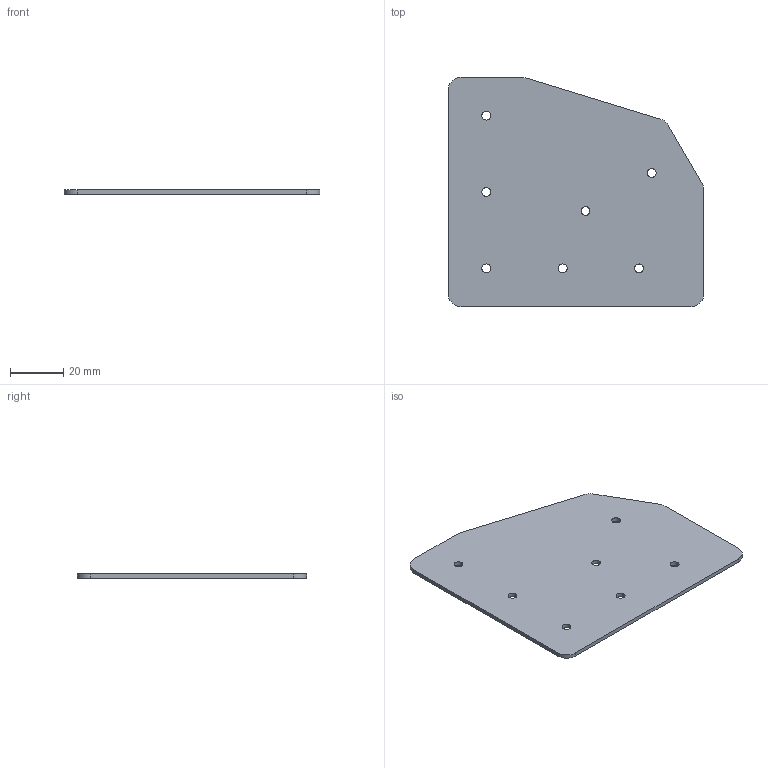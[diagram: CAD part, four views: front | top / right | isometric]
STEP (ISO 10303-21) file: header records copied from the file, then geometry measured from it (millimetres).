
FILE_DESCRIPTION (( 'STEP AP203' ), '1' );
FILE_NAME ('FDPGK-S_1-2C9060.step', '2019-09-11T19:47:10', ( 'ydmin' ), ( '' ), 'SwSTEP 2.0', 'SolidWorks 2017', '' );
FILE_SCHEMA (( 'CONFIG_CONTROL_DESIGN' ));
Length unit declared in the file: inch
Products named in the file (1): FDPGK-S_1-2C9060
Bounding box: 95.67 x 85.72 x 1.52 mm (x, y, z)
Volume: 11109.5 mm3; surface area: 15196.2 mm2
Topology: 1 solids, 1 shells, 28 faces, 78 edges, 52 vertices
Faces by surface type: cylinder 20, plane 8
Entity records: 1029 total; most frequent: DIRECTION 176, CARTESIAN_POINT 159, ORIENTED_EDGE 156, EDGE_CURVE 78, AXIS2_PLACEMENT_3D 69, VERTEX_POINT 52, EDGE_LOOP 42, CIRCLE 40
